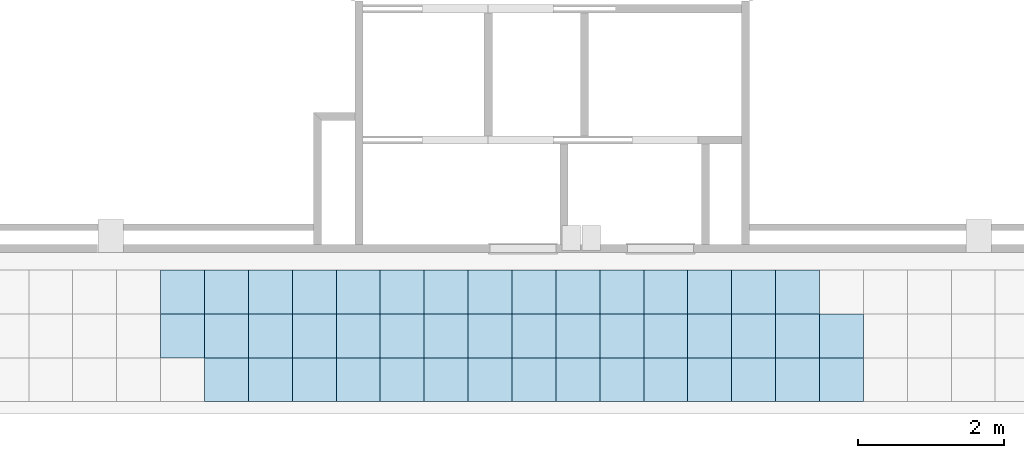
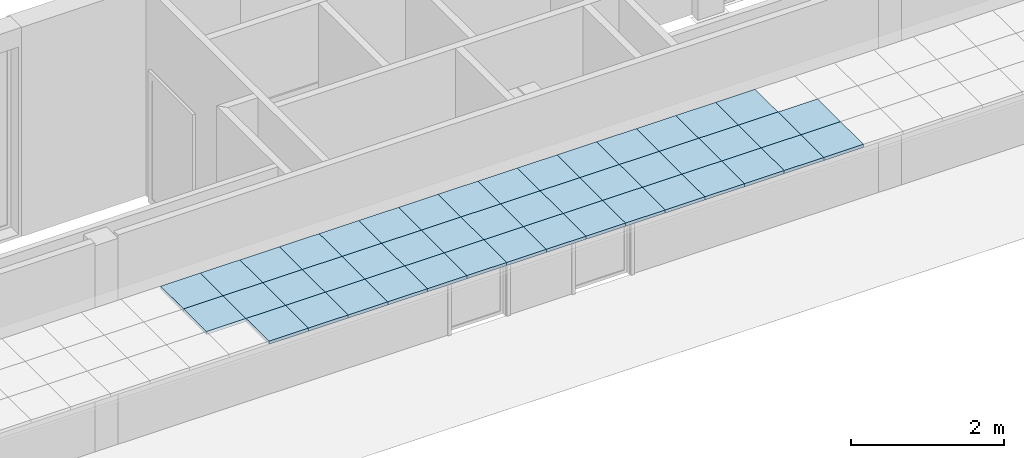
# One storey, part 15 of 60: 46 slabs.
"""IFC2X3 building model written with IfcOpenShell, lengths in millimetres."""

from ifc_helpers import new_model, entity, si_unit, converted_unit, derived_unit, money_unit, direction, frame, origin_with_axes, place, context, subcontext, project, spatial, polyline, outline, extrude, material, layer, layer_set, layer_usage, type_object, element, save


model = new_model("IFC2X3")

# Units and contexts
model_context = context("Model", 3, precision=0.01, world=origin_with_axes(), true_north=direction((0.0, 1.0)))
body_context = subcontext(model_context, "Body", "Model", "MODEL_VIEW")
ifc_project = project(units=[si_unit("LENGTHUNIT", "METRE", prefix="MILLI"), si_unit("AREAUNIT", "SQUARE_METRE"), si_unit("VOLUMEUNIT", "CUBIC_METRE"), converted_unit("PLANEANGLEUNIT", "DEGREE", entity("IfcPlaneAngleMeasure", 0.0174532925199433), si_unit("PLANEANGLEUNIT", "RADIAN"), dimensions=[0, 0, 0, 0, 0, 0, 0]), money_unit("USD"), converted_unit("TIMEUNIT", "Year", entity("IfcTimeMeasure", 31557600.0), si_unit("TIMEUNIT", "SECOND"), dimensions=[0, 0, 1, 0, 0, 0, 0]), si_unit("MASSUNIT", "GRAM", prefix="KILO"), si_unit("THERMODYNAMICTEMPERATUREUNIT", "DEGREE_CELSIUS"), si_unit("LUMINOUSINTENSITYUNIT", "LUMEN"), si_unit("ENERGYUNIT", "JOULE", prefix="MEGA"), derived_unit("THERMALCONDUCTANCEUNIT", [(si_unit("POWERUNIT", "WATT"), 1), (si_unit("LENGTHUNIT", "METRE"), -1), (si_unit("THERMODYNAMICTEMPERATUREUNIT", "KELVIN"), -1)]), derived_unit("SPECIFICHEATCAPACITYUNIT", [(si_unit("ENERGYUNIT", "JOULE"), 1), (si_unit("MASSUNIT", "GRAM", prefix="KILO"), -1), (si_unit("THERMODYNAMICTEMPERATUREUNIT", "KELVIN"), -1)]), derived_unit("MASSDENSITYUNIT", [(si_unit("MASSUNIT", "GRAM", prefix="KILO"), 1), (si_unit("VOLUMEUNIT", "CUBIC_METRE"), -1)])], contexts=[model_context])

# Site, building, storey
site_placement = place(None, origin_with_axes())
site = spatial("IfcSite", under=ifc_project, at=site_placement, Name="Sitio", CompositionType="ELEMENT")
building_placement = place(site_placement, origin_with_axes())
building = spatial("IfcBuilding", under=site, at=building_placement, Name="Construcción", CompositionType="ELEMENT")
storey_placement = place(building_placement, frame((0.0, 0.0, 3650.0), z_axis=(0.0, 0.0, 1.0), x_axis=(1.0, 0.0, 0.0)))
storey = spatial("IfcBuildingStorey", under=building, at=storey_placement, Name="PLANTA 2ª", CompositionType="ELEMENT", Elevation=3650.0)

# Slabs
ifc_material = material(Name="ARQ_CE217_Armstrong 60x60")
ifc_layer = layer(ifc_material, 50.0, ventilated="UNKNOWN")
ifc_layer_set = layer_set([ifc_layer], Name="ARQ_CE217_Armstrong 60x60 50")
ifc_layer_usage_1 = layer_usage(ifc_layer_set, "AXIS3", "NEGATIVE", 50.0)
slab_type = type_object("IfcSlabType", Name="ARQ_CE217_Armstrong 60x60 50", PredefinedType="NOTDEFINED")
slab_1_placement = place(storey_placement, frame((-18369.70328336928, -17921.97576450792, 2500.0), z_axis=(0.0, 0.0, 1.0), x_axis=(1.0, 0.0, 0.0)))
element("IfcSlab", 1, at=slab_1_placement, inside=storey, type_object=slab_type, material=ifc_layer_usage_1, Name="SLA - 026", PredefinedType="NOTDEFINED", context=body_context, shape_type="SweptSolid", body=[
    extrude(outline(polyline([(0.0, 0.0), (600.0000000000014, 0.0), (600.0000000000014, 600.0000000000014), (0.0, 600.0000000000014), (0.0, 0.0)])), frame((0.0, 0.0, -50.0), z_axis=(0.0, 0.0, 1.0), x_axis=(1.0, 0.0, 0.0)), (0.0, 0.0, 1.0), 50.0),
])
ifc_layer_usage_2 = layer_usage(ifc_layer_set, "AXIS3", "NEGATIVE", 50.0)
slab_2_placement = place(storey_placement, frame((-17769.70328336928, -19121.97576450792, 2500.0), z_axis=(0.0, 0.0, 1.0), x_axis=(1.0, 0.0, 0.0)))
element("IfcSlab", 2, at=slab_2_placement, inside=storey, type_object=slab_type, material=ifc_layer_usage_2, Name="SLA - 026", PredefinedType="NOTDEFINED", context=body_context, shape_type="SweptSolid", body=[
    extrude(outline(polyline([(0.0, 0.0), (600.0000000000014, 0.0), (600.0000000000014, 600.0000000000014), (0.0, 600.0000000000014), (0.0, 0.0)])), frame((0.0, 0.0, -50.0), z_axis=(0.0, 0.0, 1.0), x_axis=(1.0, 0.0, 0.0)), (0.0, 0.0, 1.0), 50.0),
])
ifc_layer_usage_3 = layer_usage(ifc_layer_set, "AXIS3", "NEGATIVE", 50.0)
slab_3_placement = place(storey_placement, frame((-17769.70328336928, -17921.97576450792, 2500.0), z_axis=(0.0, 0.0, 1.0), x_axis=(1.0, 0.0, 0.0)))
element("IfcSlab", 3, at=slab_3_placement, inside=storey, type_object=slab_type, material=ifc_layer_usage_3, Name="SLA - 026", PredefinedType="NOTDEFINED", context=body_context, shape_type="SweptSolid", body=[
    extrude(outline(polyline([(0.0, 0.0), (600.0000000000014, 0.0), (600.0000000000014, 600.0000000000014), (0.0, 600.0000000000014), (0.0, 0.0)])), frame((0.0, 0.0, -50.0), z_axis=(0.0, 0.0, 1.0), x_axis=(1.0, 0.0, 0.0)), (0.0, 0.0, 1.0), 50.0),
])
ifc_layer_usage_4 = layer_usage(ifc_layer_set, "AXIS3", "NEGATIVE", 50.0)
slab_4_placement = place(storey_placement, frame((-17169.70328336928, -19121.97576450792, 2500.0), z_axis=(0.0, 0.0, 1.0), x_axis=(1.0, 0.0, 0.0)))
element("IfcSlab", 4, at=slab_4_placement, inside=storey, type_object=slab_type, material=ifc_layer_usage_4, Name="SLA - 026", PredefinedType="NOTDEFINED", context=body_context, shape_type="SweptSolid", body=[
    extrude(outline(polyline([(0.0, 0.0), (600.0000000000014, 0.0), (600.0000000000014, 600.0000000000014), (0.0, 600.0000000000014), (0.0, 0.0)])), frame((0.0, 0.0, -50.0), z_axis=(0.0, 0.0, 1.0), x_axis=(1.0, 0.0, 0.0)), (0.0, 0.0, 1.0), 50.0),
])
ifc_layer_usage_5 = layer_usage(ifc_layer_set, "AXIS3", "NEGATIVE", 50.0)
slab_5_placement = place(storey_placement, frame((-17769.70328336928, -18521.97576450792, 2500.0), z_axis=(0.0, 0.0, 1.0), x_axis=(1.0, 0.0, 0.0)))
element("IfcSlab", 5, at=slab_5_placement, inside=storey, type_object=slab_type, material=ifc_layer_usage_5, Name="SLA - 026", PredefinedType="NOTDEFINED", context=body_context, shape_type="SweptSolid", body=[
    extrude(outline(polyline([(0.0, 0.0), (600.0000000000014, 0.0), (600.0000000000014, 600.0000000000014), (0.0, 600.0000000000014), (0.0, 0.0)])), frame((0.0, 0.0, -50.0), z_axis=(0.0, 0.0, 1.0), x_axis=(1.0, 0.0, 0.0)), (0.0, 0.0, 1.0), 50.0),
])
ifc_layer_usage_6 = layer_usage(ifc_layer_set, "AXIS3", "NEGATIVE", 50.0)
slab_6_placement = place(storey_placement, frame((-17169.70328336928, -18521.97576450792, 2500.0), z_axis=(0.0, 0.0, 1.0), x_axis=(1.0, 0.0, 0.0)))
element("IfcSlab", 6, at=slab_6_placement, inside=storey, type_object=slab_type, material=ifc_layer_usage_6, Name="SLA - 026", PredefinedType="NOTDEFINED", context=body_context, shape_type="SweptSolid", body=[
    extrude(outline(polyline([(0.0, 0.0), (600.0000000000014, 0.0), (600.0000000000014, 600.0000000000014), (0.0, 600.0000000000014), (0.0, 0.0)])), frame((0.0, 0.0, -50.0), z_axis=(0.0, 0.0, 1.0), x_axis=(1.0, 0.0, 0.0)), (0.0, 0.0, 1.0), 50.0),
])
ifc_layer_usage_7 = layer_usage(ifc_layer_set, "AXIS3", "NEGATIVE", 50.0)
slab_7_placement = place(storey_placement, frame((-17169.70328336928, -17921.97576450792, 2500.0), z_axis=(0.0, 0.0, 1.0), x_axis=(1.0, 0.0, 0.0)))
element("IfcSlab", 7, at=slab_7_placement, inside=storey, type_object=slab_type, material=ifc_layer_usage_7, Name="SLA - 026", PredefinedType="NOTDEFINED", context=body_context, shape_type="SweptSolid", body=[
    extrude(outline(polyline([(0.0, 0.0), (600.0000000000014, 0.0), (600.0000000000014, 600.0000000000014), (0.0, 600.0000000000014), (0.0, 0.0)])), frame((0.0, 0.0, -50.0), z_axis=(0.0, 0.0, 1.0), x_axis=(1.0, 0.0, 0.0)), (0.0, 0.0, 1.0), 50.0),
])
ifc_layer_usage_8 = layer_usage(ifc_layer_set, "AXIS3", "NEGATIVE", 50.0)
slab_8_placement = place(storey_placement, frame((-16569.70328336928, -19121.97576450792, 2500.0), z_axis=(0.0, 0.0, 1.0), x_axis=(1.0, 0.0, 0.0)))
element("IfcSlab", 8, at=slab_8_placement, inside=storey, type_object=slab_type, material=ifc_layer_usage_8, Name="SLA - 026", PredefinedType="NOTDEFINED", context=body_context, shape_type="SweptSolid", body=[
    extrude(outline(polyline([(0.0, 0.0), (599.9999999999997, 0.0), (599.9999999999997, 600.0000000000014), (0.0, 600.0000000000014), (0.0, 0.0)])), frame((0.0, 0.0, -50.0), z_axis=(0.0, 0.0, 1.0), x_axis=(1.0, 0.0, 0.0)), (0.0, 0.0, 1.0), 50.0),
])
ifc_layer_usage_9 = layer_usage(ifc_layer_set, "AXIS3", "NEGATIVE", 50.0)
slab_9_placement = place(storey_placement, frame((-16569.70328336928, -18521.97576450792, 2500.0), z_axis=(0.0, 0.0, 1.0), x_axis=(1.0, 0.0, 0.0)))
element("IfcSlab", 9, at=slab_9_placement, inside=storey, type_object=slab_type, material=ifc_layer_usage_9, Name="SLA - 026", PredefinedType="NOTDEFINED", context=body_context, shape_type="SweptSolid", body=[
    extrude(outline(polyline([(0.0, 0.0), (599.9999999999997, 0.0), (599.9999999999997, 600.0000000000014), (0.0, 600.0000000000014), (0.0, 0.0)])), frame((0.0, 0.0, -50.0), z_axis=(0.0, 0.0, 1.0), x_axis=(1.0, 0.0, 0.0)), (0.0, 0.0, 1.0), 50.0),
])
ifc_layer_usage_10 = layer_usage(ifc_layer_set, "AXIS3", "NEGATIVE", 50.0)
slab_10_placement = place(storey_placement, frame((-16569.70328336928, -17921.97576450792, 2500.0), z_axis=(0.0, 0.0, 1.0), x_axis=(1.0, 0.0, 0.0)))
element("IfcSlab", 10, at=slab_10_placement, inside=storey, type_object=slab_type, material=ifc_layer_usage_10, Name="SLA - 026", PredefinedType="NOTDEFINED", context=body_context, shape_type="SweptSolid", body=[
    extrude(outline(polyline([(0.0, 0.0), (599.9999999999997, 0.0), (599.9999999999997, 600.0000000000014), (0.0, 600.0000000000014), (0.0, 0.0)])), frame((0.0, 0.0, -50.0), z_axis=(0.0, 0.0, 1.0), x_axis=(1.0, 0.0, 0.0)), (0.0, 0.0, 1.0), 50.0),
])
ifc_layer_usage_11 = layer_usage(ifc_layer_set, "AXIS3", "NEGATIVE", 50.0)
slab_11_placement = place(storey_placement, frame((-15969.70328336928, -19121.97576450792, 2500.0), z_axis=(0.0, 0.0, 1.0), x_axis=(1.0, 0.0, 0.0)))
element("IfcSlab", 11, at=slab_11_placement, inside=storey, type_object=slab_type, material=ifc_layer_usage_11, Name="SLA - 026", PredefinedType="NOTDEFINED", context=body_context, shape_type="SweptSolid", body=[
    extrude(outline(polyline([(0.0, 0.0), (600.0000000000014, 0.0), (600.0000000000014, 600.0000000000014), (0.0, 600.0000000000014), (0.0, 0.0)])), frame((0.0, 0.0, -50.0), z_axis=(0.0, 0.0, 1.0), x_axis=(1.0, 0.0, 0.0)), (0.0, 0.0, 1.0), 50.0),
])
ifc_layer_usage_12 = layer_usage(ifc_layer_set, "AXIS3", "NEGATIVE", 50.0)
slab_12_placement = place(storey_placement, frame((-15969.70328336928, -18521.97576450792, 2500.0), z_axis=(0.0, 0.0, 1.0), x_axis=(1.0, 0.0, 0.0)))
element("IfcSlab", 12, at=slab_12_placement, inside=storey, type_object=slab_type, material=ifc_layer_usage_12, Name="SLA - 026", PredefinedType="NOTDEFINED", context=body_context, shape_type="SweptSolid", body=[
    extrude(outline(polyline([(0.0, 0.0), (600.0000000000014, 0.0), (600.0000000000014, 600.0000000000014), (0.0, 600.0000000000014), (0.0, 0.0)])), frame((0.0, 0.0, -50.0), z_axis=(0.0, 0.0, 1.0), x_axis=(1.0, 0.0, 0.0)), (0.0, 0.0, 1.0), 50.0),
])
ifc_layer_usage_13 = layer_usage(ifc_layer_set, "AXIS3", "NEGATIVE", 50.0)
slab_13_placement = place(storey_placement, frame((-15969.70328336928, -17921.97576450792, 2500.0), z_axis=(0.0, 0.0, 1.0), x_axis=(1.0, 0.0, 0.0)))
element("IfcSlab", 13, at=slab_13_placement, inside=storey, type_object=slab_type, material=ifc_layer_usage_13, Name="SLA - 026", PredefinedType="NOTDEFINED", context=body_context, shape_type="SweptSolid", body=[
    extrude(outline(polyline([(0.0, 0.0), (600.0000000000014, 0.0), (600.0000000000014, 600.0000000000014), (0.0, 600.0000000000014), (0.0, 0.0)])), frame((0.0, 0.0, -50.0), z_axis=(0.0, 0.0, 1.0), x_axis=(1.0, 0.0, 0.0)), (0.0, 0.0, 1.0), 50.0),
])
ifc_layer_usage_14 = layer_usage(ifc_layer_set, "AXIS3", "NEGATIVE", 50.0)
slab_14_placement = place(storey_placement, frame((-15369.70328336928, -19121.97576450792, 2500.0), z_axis=(0.0, 0.0, 1.0), x_axis=(1.0, 0.0, 0.0)))
element("IfcSlab", 14, at=slab_14_placement, inside=storey, type_object=slab_type, material=ifc_layer_usage_14, Name="SLA - 026", PredefinedType="NOTDEFINED", context=body_context, shape_type="SweptSolid", body=[
    extrude(outline(polyline([(0.0, 0.0), (600.0000000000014, 0.0), (600.0000000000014, 600.0000000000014), (0.0, 600.0000000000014), (0.0, 0.0)])), frame((0.0, 0.0, -50.0), z_axis=(0.0, 0.0, 1.0), x_axis=(1.0, 0.0, 0.0)), (0.0, 0.0, 1.0), 50.0),
])
ifc_layer_usage_15 = layer_usage(ifc_layer_set, "AXIS3", "NEGATIVE", 50.0)
slab_15_placement = place(storey_placement, frame((-15369.70328336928, -18521.97576450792, 2500.0), z_axis=(0.0, 0.0, 1.0), x_axis=(1.0, 0.0, 0.0)))
element("IfcSlab", 15, at=slab_15_placement, inside=storey, type_object=slab_type, material=ifc_layer_usage_15, Name="SLA - 026", PredefinedType="NOTDEFINED", context=body_context, shape_type="SweptSolid", body=[
    extrude(outline(polyline([(0.0, 0.0), (600.0000000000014, 0.0), (600.0000000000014, 600.0000000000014), (0.0, 600.0000000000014), (0.0, 0.0)])), frame((0.0, 0.0, -50.0), z_axis=(0.0, 0.0, 1.0), x_axis=(1.0, 0.0, 0.0)), (0.0, 0.0, 1.0), 50.0),
])
ifc_layer_usage_16 = layer_usage(ifc_layer_set, "AXIS3", "NEGATIVE", 50.0)
slab_16_placement = place(storey_placement, frame((-14769.70328336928, -19121.97576450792, 2500.0), z_axis=(0.0, 0.0, 1.0), x_axis=(1.0, 0.0, 0.0)))
element("IfcSlab", 16, at=slab_16_placement, inside=storey, type_object=slab_type, material=ifc_layer_usage_16, Name="SLA - 026", PredefinedType="NOTDEFINED", context=body_context, shape_type="SweptSolid", body=[
    extrude(outline(polyline([(0.0, 0.0), (600.0000000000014, 0.0), (600.0000000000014, 600.0000000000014), (0.0, 600.0000000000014), (0.0, 0.0)])), frame((0.0, 0.0, -50.0), z_axis=(0.0, 0.0, 1.0), x_axis=(1.0, 0.0, 0.0)), (0.0, 0.0, 1.0), 50.0),
])
ifc_layer_usage_17 = layer_usage(ifc_layer_set, "AXIS3", "NEGATIVE", 50.0)
slab_17_placement = place(storey_placement, frame((-15369.70328336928, -17921.97576450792, 2500.0), z_axis=(0.0, 0.0, 1.0), x_axis=(1.0, 0.0, 0.0)))
element("IfcSlab", 17, at=slab_17_placement, inside=storey, type_object=slab_type, material=ifc_layer_usage_17, Name="SLA - 026", PredefinedType="NOTDEFINED", context=body_context, shape_type="SweptSolid", body=[
    extrude(outline(polyline([(0.0, 0.0), (600.0000000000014, 0.0), (600.0000000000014, 600.0000000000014), (0.0, 600.0000000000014), (0.0, 0.0)])), frame((0.0, 0.0, -50.0), z_axis=(0.0, 0.0, 1.0), x_axis=(1.0, 0.0, 0.0)), (0.0, 0.0, 1.0), 50.0),
])
ifc_layer_usage_18 = layer_usage(ifc_layer_set, "AXIS3", "NEGATIVE", 50.0)
slab_18_placement = place(storey_placement, frame((-14769.70328336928, -18521.97576450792, 2500.0), z_axis=(0.0, 0.0, 1.0), x_axis=(1.0, 0.0, 0.0)))
element("IfcSlab", 18, at=slab_18_placement, inside=storey, type_object=slab_type, material=ifc_layer_usage_18, Name="SLA - 026", PredefinedType="NOTDEFINED", context=body_context, shape_type="SweptSolid", body=[
    extrude(outline(polyline([(0.0, 0.0), (600.0000000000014, 0.0), (600.0000000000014, 600.0000000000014), (0.0, 600.0000000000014), (0.0, 0.0)])), frame((0.0, 0.0, -50.0), z_axis=(0.0, 0.0, 1.0), x_axis=(1.0, 0.0, 0.0)), (0.0, 0.0, 1.0), 50.0),
])
ifc_layer_usage_19 = layer_usage(ifc_layer_set, "AXIS3", "NEGATIVE", 50.0)
slab_19_placement = place(storey_placement, frame((-18369.70328336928, -18521.97576450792, 2500.0), z_axis=(0.0, 0.0, 1.0), x_axis=(1.0, 0.0, 0.0)))
element("IfcSlab", 19, at=slab_19_placement, inside=storey, type_object=slab_type, material=ifc_layer_usage_19, Name="SLA - 026", PredefinedType="NOTDEFINED", context=body_context, shape_type="SweptSolid", body=[
    extrude(outline(polyline([(0.0, 0.0), (600.0000000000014, 0.0), (600.0000000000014, 600.0000000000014), (0.0, 600.0000000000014), (0.0, 0.0)])), frame((0.0, 0.0, -50.0), z_axis=(0.0, 0.0, 1.0), x_axis=(1.0, 0.0, 0.0)), (0.0, 0.0, 1.0), 50.0),
])
ifc_layer_usage_20 = layer_usage(ifc_layer_set, "AXIS3", "NEGATIVE", 50.0)
slab_20_placement = place(storey_placement, frame((-14769.70328336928, -17921.97576450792, 2500.0), z_axis=(0.0, 0.0, 1.0), x_axis=(1.0, 0.0, 0.0)))
element("IfcSlab", 20, at=slab_20_placement, inside=storey, type_object=slab_type, material=ifc_layer_usage_20, Name="SLA - 026", PredefinedType="NOTDEFINED", context=body_context, shape_type="SweptSolid", body=[
    extrude(outline(polyline([(0.0, 0.0), (600.0000000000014, 0.0), (600.0000000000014, 600.0000000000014), (0.0, 600.0000000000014), (0.0, 0.0)])), frame((0.0, 0.0, -50.0), z_axis=(0.0, 0.0, 1.0), x_axis=(1.0, 0.0, 0.0)), (0.0, 0.0, 1.0), 50.0),
])
ifc_layer_usage_21 = layer_usage(ifc_layer_set, "AXIS3", "NEGATIVE", 50.0)
slab_21_placement = place(storey_placement, frame((-14169.70328336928, -18521.97576450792, 2500.0), z_axis=(0.0, 0.0, 1.0), x_axis=(1.0, 0.0, 0.0)))
element("IfcSlab", 21, at=slab_21_placement, inside=storey, type_object=slab_type, material=ifc_layer_usage_21, Name="SLA - 026", PredefinedType="NOTDEFINED", context=body_context, shape_type="SweptSolid", body=[
    extrude(outline(polyline([(0.0, 0.0), (600.0000000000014, 0.0), (600.0000000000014, 600.0000000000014), (0.0, 600.0000000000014), (0.0, 0.0)])), frame((0.0, 0.0, -50.0), z_axis=(0.0, 0.0, 1.0), x_axis=(1.0, 0.0, 0.0)), (0.0, 0.0, 1.0), 50.0),
])
ifc_layer_usage_22 = layer_usage(ifc_layer_set, "AXIS3", "NEGATIVE", 50.0)
slab_22_placement = place(storey_placement, frame((-14169.70328336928, -19121.97576450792, 2500.0), z_axis=(0.0, 0.0, 1.0), x_axis=(1.0, 0.0, 0.0)))
element("IfcSlab", 22, at=slab_22_placement, inside=storey, type_object=slab_type, material=ifc_layer_usage_22, Name="SLA - 026", PredefinedType="NOTDEFINED", context=body_context, shape_type="SweptSolid", body=[
    extrude(outline(polyline([(0.0, 0.0), (600.0000000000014, 0.0), (600.0000000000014, 600.0000000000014), (0.0, 600.0000000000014), (0.0, 0.0)])), frame((0.0, 0.0, -50.0), z_axis=(0.0, 0.0, 1.0), x_axis=(1.0, 0.0, 0.0)), (0.0, 0.0, 1.0), 50.0),
])
ifc_layer_usage_23 = layer_usage(ifc_layer_set, "AXIS3", "NEGATIVE", 50.0)
slab_23_placement = place(storey_placement, frame((-14169.70328336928, -17921.97576450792, 2500.0), z_axis=(0.0, 0.0, 1.0), x_axis=(1.0, 0.0, 0.0)))
element("IfcSlab", 23, at=slab_23_placement, inside=storey, type_object=slab_type, material=ifc_layer_usage_23, Name="SLA - 026", PredefinedType="NOTDEFINED", context=body_context, shape_type="SweptSolid", body=[
    extrude(outline(polyline([(0.0, 0.0), (600.0000000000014, 0.0), (600.0000000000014, 600.0000000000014), (0.0, 600.0000000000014), (0.0, 0.0)])), frame((0.0, 0.0, -50.0), z_axis=(0.0, 0.0, 1.0), x_axis=(1.0, 0.0, 0.0)), (0.0, 0.0, 1.0), 50.0),
])
ifc_layer_usage_24 = layer_usage(ifc_layer_set, "AXIS3", "NEGATIVE", 50.0)
slab_24_placement = place(storey_placement, frame((-13569.70328336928, -18521.97576450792, 2500.0), z_axis=(0.0, 0.0, 1.0), x_axis=(1.0, 0.0, 0.0)))
element("IfcSlab", 24, at=slab_24_placement, inside=storey, type_object=slab_type, material=ifc_layer_usage_24, Name="SLA - 026", PredefinedType="NOTDEFINED", context=body_context, shape_type="SweptSolid", body=[
    extrude(outline(polyline([(0.0, 0.0), (600.0000000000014, 0.0), (600.0000000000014, 600.0000000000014), (0.0, 600.0000000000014), (0.0, 0.0)])), frame((0.0, 0.0, -50.0), z_axis=(0.0, 0.0, 1.0), x_axis=(1.0, 0.0, 0.0)), (0.0, 0.0, 1.0), 50.0),
])
ifc_layer_usage_25 = layer_usage(ifc_layer_set, "AXIS3", "NEGATIVE", 50.0)
slab_25_placement = place(storey_placement, frame((-13569.70328336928, -19121.97576450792, 2500.0), z_axis=(0.0, 0.0, 1.0), x_axis=(1.0, 0.0, 0.0)))
element("IfcSlab", 25, at=slab_25_placement, inside=storey, type_object=slab_type, material=ifc_layer_usage_25, Name="SLA - 026", PredefinedType="NOTDEFINED", context=body_context, shape_type="SweptSolid", body=[
    extrude(outline(polyline([(0.0, 0.0), (600.0000000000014, 0.0), (600.0000000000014, 600.0000000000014), (0.0, 600.0000000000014), (0.0, 0.0)])), frame((0.0, 0.0, -50.0), z_axis=(0.0, 0.0, 1.0), x_axis=(1.0, 0.0, 0.0)), (0.0, 0.0, 1.0), 50.0),
])
ifc_layer_usage_26 = layer_usage(ifc_layer_set, "AXIS3", "NEGATIVE", 50.0)
slab_26_placement = place(storey_placement, frame((-13569.70328336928, -17921.97576450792, 2500.0), z_axis=(0.0, 0.0, 1.0), x_axis=(1.0, 0.0, 0.0)))
element("IfcSlab", 26, at=slab_26_placement, inside=storey, type_object=slab_type, material=ifc_layer_usage_26, Name="SLA - 026", PredefinedType="NOTDEFINED", context=body_context, shape_type="SweptSolid", body=[
    extrude(outline(polyline([(0.0, 0.0), (600.0000000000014, 0.0), (600.0000000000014, 600.0000000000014), (0.0, 600.0000000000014), (0.0, 0.0)])), frame((0.0, 0.0, -50.0), z_axis=(0.0, 0.0, 1.0), x_axis=(1.0, 0.0, 0.0)), (0.0, 0.0, 1.0), 50.0),
])
ifc_layer_usage_27 = layer_usage(ifc_layer_set, "AXIS3", "NEGATIVE", 50.0)
slab_27_placement = place(storey_placement, frame((-12969.70328336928, -18521.97576450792, 2500.0), z_axis=(0.0, 0.0, 1.0), x_axis=(1.0, 0.0, 0.0)))
element("IfcSlab", 27, at=slab_27_placement, inside=storey, type_object=slab_type, material=ifc_layer_usage_27, Name="SLA - 026", PredefinedType="NOTDEFINED", context=body_context, shape_type="SweptSolid", body=[
    extrude(outline(polyline([(0.0, 0.0), (600.0000000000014, 0.0), (600.0000000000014, 600.0000000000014), (0.0, 600.0000000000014), (0.0, 0.0)])), frame((0.0, 0.0, -50.0), z_axis=(0.0, 0.0, 1.0), x_axis=(1.0, 0.0, 0.0)), (0.0, 0.0, 1.0), 50.0),
])
ifc_layer_usage_28 = layer_usage(ifc_layer_set, "AXIS3", "NEGATIVE", 50.0)
slab_28_placement = place(storey_placement, frame((-12969.70328336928, -17921.97576450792, 2500.0), z_axis=(0.0, 0.0, 1.0), x_axis=(1.0, 0.0, 0.0)))
element("IfcSlab", 28, at=slab_28_placement, inside=storey, type_object=slab_type, material=ifc_layer_usage_28, Name="SLA - 026", PredefinedType="NOTDEFINED", context=body_context, shape_type="SweptSolid", body=[
    extrude(outline(polyline([(0.0, 0.0), (600.0000000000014, 0.0), (600.0000000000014, 600.0000000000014), (0.0, 600.0000000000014), (0.0, 0.0)])), frame((0.0, 0.0, -50.0), z_axis=(0.0, 0.0, 1.0), x_axis=(1.0, 0.0, 0.0)), (0.0, 0.0, 1.0), 50.0),
])
ifc_layer_usage_29 = layer_usage(ifc_layer_set, "AXIS3", "NEGATIVE", 50.0)
slab_29_placement = place(storey_placement, frame((-12369.70328336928, -19121.97576450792, 2500.0), z_axis=(0.0, 0.0, 1.0), x_axis=(1.0, 0.0, 0.0)))
element("IfcSlab", 29, at=slab_29_placement, inside=storey, type_object=slab_type, material=ifc_layer_usage_29, Name="SLA - 026", PredefinedType="NOTDEFINED", context=body_context, shape_type="SweptSolid", body=[
    extrude(outline(polyline([(0.0, 0.0), (600.0000000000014, 0.0), (600.0000000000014, 600.0000000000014), (0.0, 600.0000000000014), (0.0, 0.0)])), frame((0.0, 0.0, -50.0), z_axis=(0.0, 0.0, 1.0), x_axis=(1.0, 0.0, 0.0)), (0.0, 0.0, 1.0), 50.0),
])
ifc_layer_usage_30 = layer_usage(ifc_layer_set, "AXIS3", "NEGATIVE", 50.0)
slab_30_placement = place(storey_placement, frame((-12969.70328336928, -19121.97576450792, 2500.0), z_axis=(0.0, 0.0, 1.0), x_axis=(1.0, 0.0, 0.0)))
element("IfcSlab", 30, at=slab_30_placement, inside=storey, type_object=slab_type, material=ifc_layer_usage_30, Name="SLA - 026", PredefinedType="NOTDEFINED", context=body_context, shape_type="SweptSolid", body=[
    extrude(outline(polyline([(0.0, 0.0), (600.0000000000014, 0.0), (600.0000000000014, 600.0000000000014), (0.0, 600.0000000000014), (0.0, 0.0)])), frame((0.0, 0.0, -50.0), z_axis=(0.0, 0.0, 1.0), x_axis=(1.0, 0.0, 0.0)), (0.0, 0.0, 1.0), 50.0),
])
ifc_layer_usage_31 = layer_usage(ifc_layer_set, "AXIS3", "NEGATIVE", 50.0)
slab_31_placement = place(storey_placement, frame((-12369.70328336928, -18521.97576450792, 2500.0), z_axis=(0.0, 0.0, 1.0), x_axis=(1.0, 0.0, 0.0)))
element("IfcSlab", 31, at=slab_31_placement, inside=storey, type_object=slab_type, material=ifc_layer_usage_31, Name="SLA - 026", PredefinedType="NOTDEFINED", context=body_context, shape_type="SweptSolid", body=[
    extrude(outline(polyline([(0.0, 0.0), (600.0000000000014, 0.0), (600.0000000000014, 600.0000000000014), (0.0, 600.0000000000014), (0.0, 0.0)])), frame((0.0, 0.0, -50.0), z_axis=(0.0, 0.0, 1.0), x_axis=(1.0, 0.0, 0.0)), (0.0, 0.0, 1.0), 50.0),
])
ifc_layer_usage_32 = layer_usage(ifc_layer_set, "AXIS3", "NEGATIVE", 50.0)
slab_32_placement = place(storey_placement, frame((-11769.70328336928, -19121.97576450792, 2500.0), z_axis=(0.0, 0.0, 1.0), x_axis=(1.0, 0.0, 0.0)))
element("IfcSlab", 32, at=slab_32_placement, inside=storey, type_object=slab_type, material=ifc_layer_usage_32, Name="SLA - 026", PredefinedType="NOTDEFINED", context=body_context, shape_type="SweptSolid", body=[
    extrude(outline(polyline([(0.0, 0.0), (600.0000000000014, 0.0), (600.0000000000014, 600.0000000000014), (0.0, 600.0000000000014), (0.0, 0.0)])), frame((0.0, 0.0, -50.0), z_axis=(0.0, 0.0, 1.0), x_axis=(1.0, 0.0, 0.0)), (0.0, 0.0, 1.0), 50.0),
])
ifc_layer_usage_33 = layer_usage(ifc_layer_set, "AXIS3", "NEGATIVE", 50.0)
slab_33_placement = place(storey_placement, frame((-11769.70328336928, -18521.97576450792, 2500.0), z_axis=(0.0, 0.0, 1.0), x_axis=(1.0, 0.0, 0.0)))
element("IfcSlab", 33, at=slab_33_placement, inside=storey, type_object=slab_type, material=ifc_layer_usage_33, Name="SLA - 026", PredefinedType="NOTDEFINED", context=body_context, shape_type="SweptSolid", body=[
    extrude(outline(polyline([(0.0, 0.0), (600.0000000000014, 0.0), (600.0000000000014, 600.0000000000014), (0.0, 600.0000000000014), (0.0, 0.0)])), frame((0.0, 0.0, -50.0), z_axis=(0.0, 0.0, 1.0), x_axis=(1.0, 0.0, 0.0)), (0.0, 0.0, 1.0), 50.0),
])
ifc_layer_usage_34 = layer_usage(ifc_layer_set, "AXIS3", "NEGATIVE", 50.0)
slab_34_placement = place(storey_placement, frame((-11169.70328336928, -19121.97576450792, 2500.0), z_axis=(0.0, 0.0, 1.0), x_axis=(1.0, 0.0, 0.0)))
element("IfcSlab", 34, at=slab_34_placement, inside=storey, type_object=slab_type, material=ifc_layer_usage_34, Name="SLA - 026", PredefinedType="NOTDEFINED", context=body_context, shape_type="SweptSolid", body=[
    extrude(outline(polyline([(0.0, 0.0), (600.0000000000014, 0.0), (600.0000000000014, 600.0000000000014), (0.0, 600.0000000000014), (0.0, 0.0)])), frame((0.0, 0.0, -50.0), z_axis=(0.0, 0.0, 1.0), x_axis=(1.0, 0.0, 0.0)), (0.0, 0.0, 1.0), 50.0),
])
ifc_layer_usage_35 = layer_usage(ifc_layer_set, "AXIS3", "NEGATIVE", 50.0)
slab_35_placement = place(storey_placement, frame((-11769.70328336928, -17921.97576450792, 2500.0), z_axis=(0.0, 0.0, 1.0), x_axis=(1.0, 0.0, 0.0)))
element("IfcSlab", 35, at=slab_35_placement, inside=storey, type_object=slab_type, material=ifc_layer_usage_35, Name="SLA - 026", PredefinedType="NOTDEFINED", context=body_context, shape_type="SweptSolid", body=[
    extrude(outline(polyline([(0.0, 0.0), (600.0000000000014, 0.0), (600.0000000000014, 600.0000000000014), (0.0, 600.0000000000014), (0.0, 0.0)])), frame((0.0, 0.0, -50.0), z_axis=(0.0, 0.0, 1.0), x_axis=(1.0, 0.0, 0.0)), (0.0, 0.0, 1.0), 50.0),
])
ifc_layer_usage_36 = layer_usage(ifc_layer_set, "AXIS3", "NEGATIVE", 50.0)
slab_36_placement = place(storey_placement, frame((-11169.70328336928, -18521.97576450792, 2500.0), z_axis=(0.0, 0.0, 1.0), x_axis=(1.0, 0.0, 0.0)))
element("IfcSlab", 36, at=slab_36_placement, inside=storey, type_object=slab_type, material=ifc_layer_usage_36, Name="SLA - 026", PredefinedType="NOTDEFINED", context=body_context, shape_type="SweptSolid", body=[
    extrude(outline(polyline([(0.0, 0.0), (600.0000000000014, 0.0), (600.0000000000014, 600.0000000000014), (0.0, 600.0000000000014), (0.0, 0.0)])), frame((0.0, 0.0, -50.0), z_axis=(0.0, 0.0, 1.0), x_axis=(1.0, 0.0, 0.0)), (0.0, 0.0, 1.0), 50.0),
])
ifc_layer_usage_37 = layer_usage(ifc_layer_set, "AXIS3", "NEGATIVE", 50.0)
slab_37_placement = place(storey_placement, frame((-12369.70328336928, -17921.97576450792, 2500.0), z_axis=(0.0, 0.0, 1.0), x_axis=(1.0, 0.0, 0.0)))
element("IfcSlab", 37, at=slab_37_placement, inside=storey, type_object=slab_type, material=ifc_layer_usage_37, Name="SLA - 026", PredefinedType="NOTDEFINED", context=body_context, shape_type="SweptSolid", body=[
    extrude(outline(polyline([(0.0, 0.0), (600.0000000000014, 0.0), (600.0000000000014, 600.0000000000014), (0.0, 600.0000000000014), (0.0, 0.0)])), frame((0.0, 0.0, -50.0), z_axis=(0.0, 0.0, 1.0), x_axis=(1.0, 0.0, 0.0)), (0.0, 0.0, 1.0), 50.0),
])
ifc_layer_usage_38 = layer_usage(ifc_layer_set, "AXIS3", "NEGATIVE", 50.0)
slab_38_placement = place(storey_placement, frame((-10569.70328336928, -19121.97576450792, 2500.0), z_axis=(0.0, 0.0, 1.0), x_axis=(1.0, 0.0, 0.0)))
element("IfcSlab", 38, at=slab_38_placement, inside=storey, type_object=slab_type, material=ifc_layer_usage_38, Name="SLA - 026", PredefinedType="NOTDEFINED", context=body_context, shape_type="SweptSolid", body=[
    extrude(outline(polyline([(0.0, 0.0), (600.0000000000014, 0.0), (600.0000000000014, 600.0000000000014), (0.0, 600.0000000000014), (0.0, 0.0)])), frame((0.0, 0.0, -50.0), z_axis=(0.0, 0.0, 1.0), x_axis=(1.0, 0.0, 0.0)), (0.0, 0.0, 1.0), 50.0),
])
ifc_layer_usage_39 = layer_usage(ifc_layer_set, "AXIS3", "NEGATIVE", 50.0)
slab_39_placement = place(storey_placement, frame((-10569.70328336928, -18521.97576450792, 2500.0), z_axis=(0.0, 0.0, 1.0), x_axis=(1.0, 0.0, 0.0)))
element("IfcSlab", 39, at=slab_39_placement, inside=storey, type_object=slab_type, material=ifc_layer_usage_39, Name="SLA - 026", PredefinedType="NOTDEFINED", context=body_context, shape_type="SweptSolid", body=[
    extrude(outline(polyline([(0.0, 0.0), (600.0000000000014, 0.0), (600.0000000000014, 600.0000000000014), (0.0, 600.0000000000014), (0.0, 0.0)])), frame((0.0, 0.0, -50.0), z_axis=(0.0, 0.0, 1.0), x_axis=(1.0, 0.0, 0.0)), (0.0, 0.0, 1.0), 50.0),
])
ifc_layer_usage_40 = layer_usage(ifc_layer_set, "AXIS3", "NEGATIVE", 50.0)
slab_40_placement = place(storey_placement, frame((-11169.70328336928, -17921.97576450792, 2500.0), z_axis=(0.0, 0.0, 1.0), x_axis=(1.0, 0.0, 0.0)))
element("IfcSlab", 40, at=slab_40_placement, inside=storey, type_object=slab_type, material=ifc_layer_usage_40, Name="SLA - 026", PredefinedType="NOTDEFINED", context=body_context, shape_type="SweptSolid", body=[
    extrude(outline(polyline([(0.0, 0.0), (600.0000000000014, 0.0), (600.0000000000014, 600.0000000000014), (0.0, 600.0000000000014), (0.0, 0.0)])), frame((0.0, 0.0, -50.0), z_axis=(0.0, 0.0, 1.0), x_axis=(1.0, 0.0, 0.0)), (0.0, 0.0, 1.0), 50.0),
])
ifc_layer_usage_41 = layer_usage(ifc_layer_set, "AXIS3", "NEGATIVE", 50.0)
slab_41_placement = place(storey_placement, frame((-10569.70328336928, -17921.97576450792, 2500.0), z_axis=(0.0, 0.0, 1.0), x_axis=(1.0, 0.0, 0.0)))
element("IfcSlab", 41, at=slab_41_placement, inside=storey, type_object=slab_type, material=ifc_layer_usage_41, Name="SLA - 026", PredefinedType="NOTDEFINED", context=body_context, shape_type="SweptSolid", body=[
    extrude(outline(polyline([(0.0, 0.0), (600.0000000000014, 0.0), (600.0000000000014, 600.0000000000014), (0.0, 600.0000000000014), (0.0, 0.0)])), frame((0.0, 0.0, -50.0), z_axis=(0.0, 0.0, 1.0), x_axis=(1.0, 0.0, 0.0)), (0.0, 0.0, 1.0), 50.0),
])
ifc_layer_usage_42 = layer_usage(ifc_layer_set, "AXIS3", "NEGATIVE", 50.0)
slab_42_placement = place(storey_placement, frame((-9969.703283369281, -19121.97576450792, 2500.0), z_axis=(0.0, 0.0, 1.0), x_axis=(1.0, 0.0, 0.0)))
element("IfcSlab", 42, at=slab_42_placement, inside=storey, type_object=slab_type, material=ifc_layer_usage_42, Name="SLA - 026", PredefinedType="NOTDEFINED", context=body_context, shape_type="SweptSolid", body=[
    extrude(outline(polyline([(0.0, 0.0), (600.0000000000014, 0.0), (600.0000000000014, 600.0000000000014), (0.0, 600.0000000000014), (0.0, 0.0)])), frame((0.0, 0.0, -50.0), z_axis=(0.0, 0.0, 1.0), x_axis=(1.0, 0.0, 0.0)), (0.0, 0.0, 1.0), 50.0),
])
ifc_layer_usage_43 = layer_usage(ifc_layer_set, "AXIS3", "NEGATIVE", 50.0)
slab_43_placement = place(storey_placement, frame((-9969.703283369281, -17921.97576450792, 2500.0), z_axis=(0.0, 0.0, 1.0), x_axis=(1.0, 0.0, 0.0)))
element("IfcSlab", 43, at=slab_43_placement, inside=storey, type_object=slab_type, material=ifc_layer_usage_43, Name="SLA - 026", PredefinedType="NOTDEFINED", context=body_context, shape_type="SweptSolid", body=[
    extrude(outline(polyline([(0.0, 0.0), (600.0000000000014, 0.0), (600.0000000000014, 600.0000000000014), (0.0, 600.0000000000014), (0.0, 0.0)])), frame((0.0, 0.0, -50.0), z_axis=(0.0, 0.0, 1.0), x_axis=(1.0, 0.0, 0.0)), (0.0, 0.0, 1.0), 50.0),
])
ifc_layer_usage_44 = layer_usage(ifc_layer_set, "AXIS3", "NEGATIVE", 50.0)
slab_44_placement = place(storey_placement, frame((-9969.703283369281, -18521.97576450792, 2500.0), z_axis=(0.0, 0.0, 1.0), x_axis=(1.0, 0.0, 0.0)))
element("IfcSlab", 44, at=slab_44_placement, inside=storey, type_object=slab_type, material=ifc_layer_usage_44, Name="SLA - 026", PredefinedType="NOTDEFINED", context=body_context, shape_type="SweptSolid", body=[
    extrude(outline(polyline([(0.0, 0.0), (600.0000000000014, 0.0), (600.0000000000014, 600.0000000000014), (0.0, 600.0000000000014), (0.0, 0.0)])), frame((0.0, 0.0, -50.0), z_axis=(0.0, 0.0, 1.0), x_axis=(1.0, 0.0, 0.0)), (0.0, 0.0, 1.0), 50.0),
])
ifc_layer_usage_45 = layer_usage(ifc_layer_set, "AXIS3", "NEGATIVE", 50.0)
slab_45_placement = place(storey_placement, frame((-9369.70328336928, -18521.97576450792, 2500.0), z_axis=(0.0, 0.0, 1.0), x_axis=(1.0, 0.0, 0.0)))
element("IfcSlab", 45, at=slab_45_placement, inside=storey, type_object=slab_type, material=ifc_layer_usage_45, Name="SLA - 026", PredefinedType="NOTDEFINED", context=body_context, shape_type="SweptSolid", body=[
    extrude(outline(polyline([(0.0, 0.0), (600.0000000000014, 0.0), (600.0000000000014, 600.0000000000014), (0.0, 600.0000000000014), (0.0, 0.0)])), frame((0.0, 0.0, -50.0), z_axis=(0.0, 0.0, 1.0), x_axis=(1.0, 0.0, 0.0)), (0.0, 0.0, 1.0), 50.0),
])
ifc_layer_usage_46 = layer_usage(ifc_layer_set, "AXIS3", "NEGATIVE", 50.0)
slab_46_placement = place(storey_placement, frame((-9369.70328336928, -19121.97576450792, 2500.0), z_axis=(0.0, 0.0, 1.0), x_axis=(1.0, 0.0, 0.0)))
element("IfcSlab", 46, at=slab_46_placement, inside=storey, type_object=slab_type, material=ifc_layer_usage_46, Name="SLA - 026", PredefinedType="NOTDEFINED", context=body_context, shape_type="SweptSolid", body=[
    extrude(outline(polyline([(0.0, 0.0), (600.0000000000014, 0.0), (600.0000000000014, 600.0000000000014), (0.0, 600.0000000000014), (0.0, 0.0)])), frame((0.0, 0.0, -50.0), z_axis=(0.0, 0.0, 1.0), x_axis=(1.0, 0.0, 0.0)), (0.0, 0.0, 1.0), 50.0),
])

save(model, "model.ifc")
